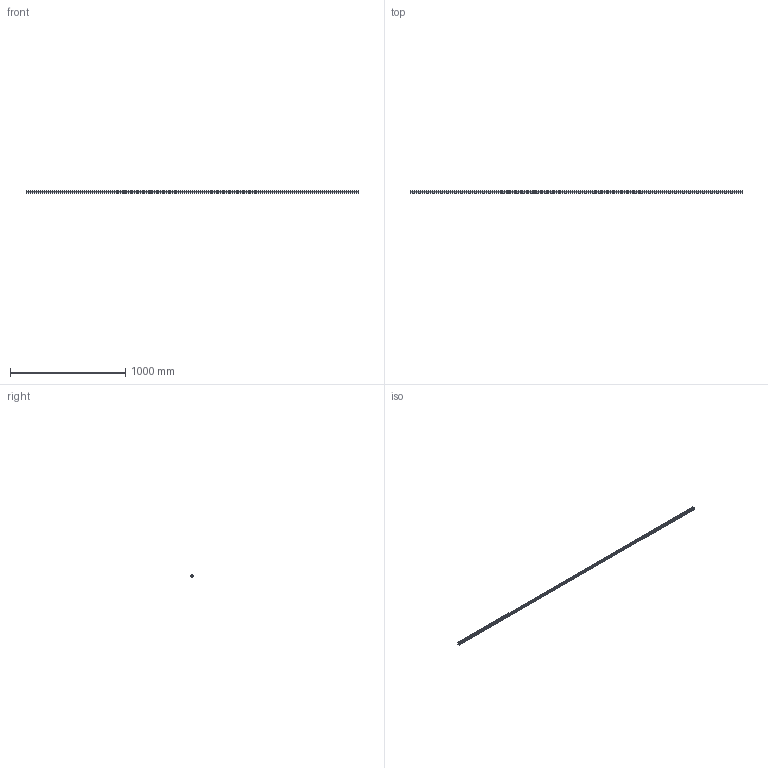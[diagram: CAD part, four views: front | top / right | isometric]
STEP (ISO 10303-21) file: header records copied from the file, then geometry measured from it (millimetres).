
FILE_DESCRIPTION (( 'STEP AP203' ), '1' );
FILE_NAME ('L1018.20R-2880.step', '2023-08-06T09:14:48', ( '' ), ( '' ), 'SwSTEP 2.0', 'SolidWorks 2019', '' );
FILE_SCHEMA (( 'CONFIG_CONTROL_DESIGN' ));
Length unit declared in the file: millimetre
Products named in the file (1): L1018.20R-2880
Bounding box: 2880 x 19.3 x 20 mm (x, y, z)
Volume: 913329.4 mm3; surface area: 243698.7 mm2
Topology: 1 solids, 1 shells, 461 faces, 1041 edges, 582 vertices
Faces by surface type: cylinder 195, cone 192, plane 74
Entity records: 12230 total; most frequent: DIRECTION 2355, CARTESIAN_POINT 1989, ORIENTED_EDGE 1890, AXIS2_PLACEMENT_3D 948, EDGE_CURVE 945, VERTEX_POINT 582, EDGE_LOOP 557, CIRCLE 486
